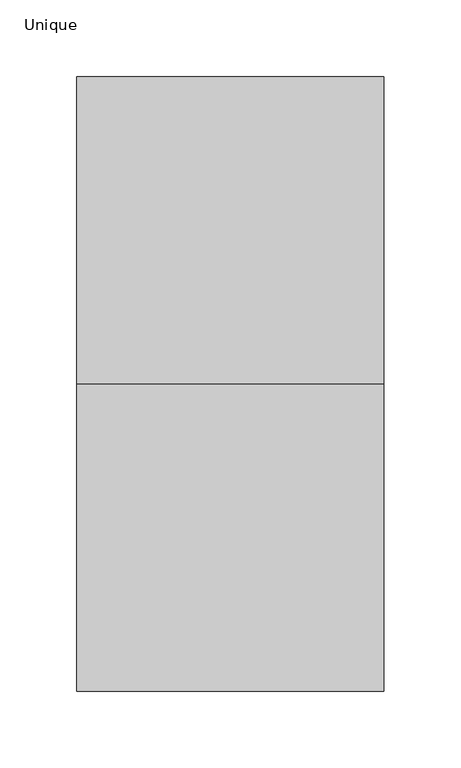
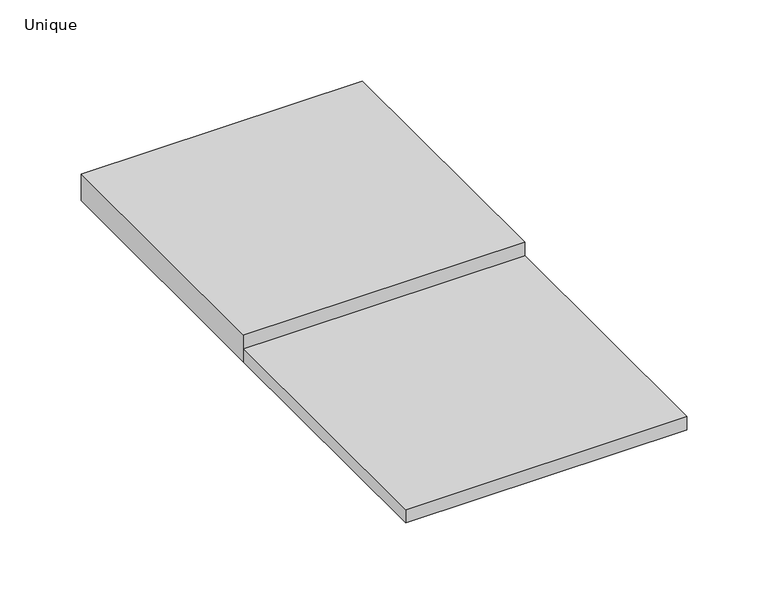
"""IFC4 building model written with IfcOpenShell, lengths in millimetres: furniture geometry, Pólis Square Panel : Unique."""

from ifc_helpers import new_model, si_unit, origin, origin_with_axes, place, context, project, spatial, polyline, outline, extrude, source, transform, mapped, element, save


def unique_fbce54b5(model_context):
    return source(origin(), model_context, "Body", "SweptSolid", [
        extrude(outline(polyline([(200.0, 0.0), (0.0, 0.0), (0.0, 200.0), (200.0, 200.0), (200.0, 0.0)])), origin_with_axes(), (0.0, 0.0, 1.0), 20.0),
        extrude(outline(polyline([(200.0, -200.0), (0.0, -200.0), (0.0, 0.0), (200.0, 0.0), (200.0, -200.0)])), origin_with_axes(), (0.0, 0.0, 1.0), 10.0),
    ])


if __name__ == "__main__":
    model = new_model("IFC4")
    model_context = context("Model", 3, world=origin())
    ifc_project = project(units=[si_unit("LENGTHUNIT", "METRE", prefix="MILLI")], contexts=[model_context])
    site = spatial("IfcSite", under=ifc_project)
    building = spatial("IfcBuilding", under=site)
    placement = place(None, origin())
    unique_shape = unique_fbce54b5(model_context)
    element("IfcFurniture", 1, ObjectType="Pólis Square Panel : Unique", at=placement, inside=building, context=model_context, shape_type="MappedRepresentation", body=[
        mapped(unique_shape, transform((0.0, 0.0, 0.0), x_axis=(1.0, 0.0, 0.0), y_axis=(0.0, 1.0, 0.0), z_axis=(0.0, 0.0, 1.0))),
    ])
    save(model, "model.ifc")
